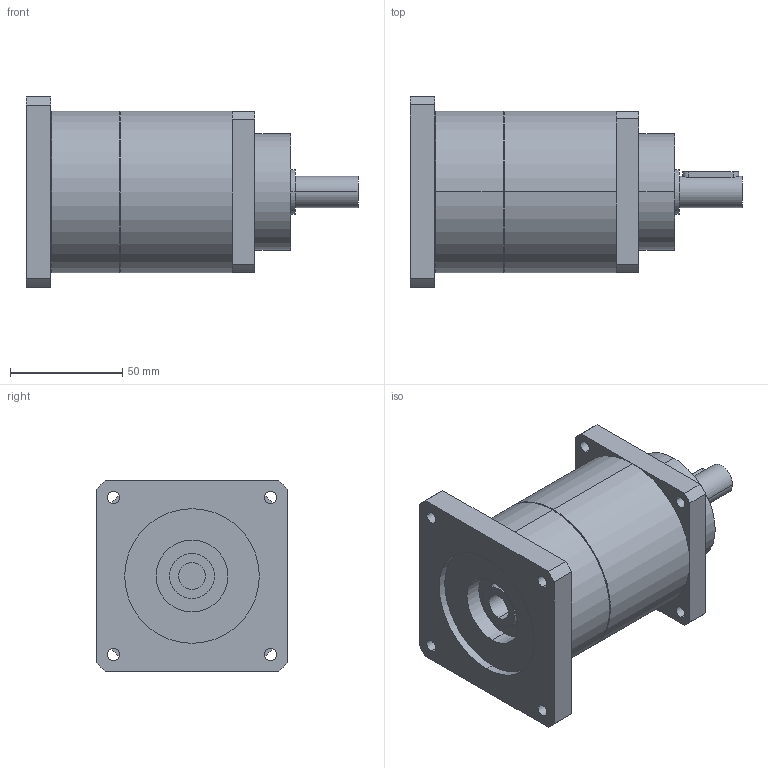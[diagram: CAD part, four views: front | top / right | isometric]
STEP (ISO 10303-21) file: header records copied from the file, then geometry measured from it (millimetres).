
FILE_DESCRIPTION(('CoCreate Modeling STEP Export'),'2;1');
FILE_NAME('GPT75_ig-9-12-16-20-25-28-35-40-50-70-100_14_B5T_12_P33.stp','2014-08-27T13:37:31',(''),(''),'CoCreate Modeling STEP processor for AP214 (Solid Model)','CoCreate Modeling 16.00C 25-Feb-2009 (C) Parametric Technology GmbH','');
FILE_SCHEMA(('AUTOMOTIVE_DESIGN { 1 0 10303 214 1 1 1 1 }'));
Length unit declared in the file: millimetre
Products named in the file (2): GPT75_ig-9-12-16-20-25-28-35-40-50-70-100_14_B5T_12_P33
Assembly tree (1 placements, depth 2):
  GPT75_ig-9-12-16-20-25-28-35-40-50-70-100_14_B5T_12_P33
    GPT75_ig-9-12-16-20-25-28-35-40-50-70-100_14_B5T_12_P33
Bounding box: 148 x 85 x 85 mm (x, y, z)
Volume: 479006.8 mm3; surface area: 49853.1 mm2
Topology: 1 solids, 1 shells, 77 faces, 194 edges, 129 vertices
Faces by surface type: cylinder 46, plane 27, cone 4
Entity records: 2484 total; most frequent: CARTESIAN_POINT 719, ORIENTED_EDGE 388, DIRECTION 320, EDGE_CURVE 194, VERTEX_POINT 129, AXIS2_PLACEMENT_3D 118, EDGE_LOOP 103, VECTOR 84
